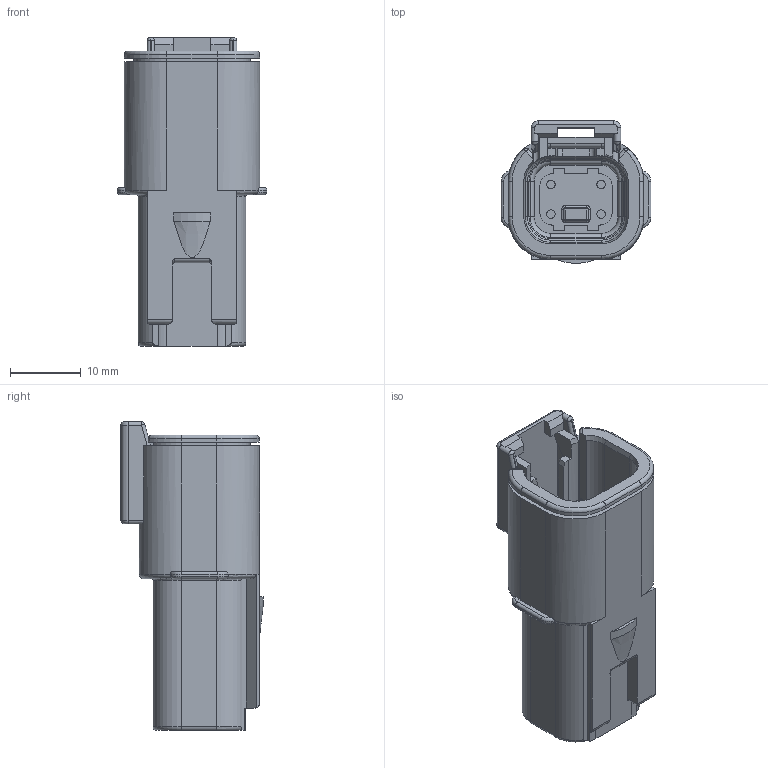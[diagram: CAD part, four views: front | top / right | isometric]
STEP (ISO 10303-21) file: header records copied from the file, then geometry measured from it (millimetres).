
FILE_DESCRIPTION((''),'2;1');
FILE_NAME('C-DTMH04-4PA','2013-07-29T',('workeradm'),('Tyco Electronics Ltd.'),'PRO/ENGINEER BY PARAMETRIC TECHNOLOGY CORPORATION, 2011490','PRO/ENGINEER BY PARAMETRIC TECHNOLOGY CORPORATION, 2011490','');
FILE_SCHEMA(('AUTOMOTIVE_DESIGN { 1 0 10303 214 1 1 1 1 }'));
Length unit declared in the file: millimetre
Products named in the file (1): C-DTMH04-4PA
Bounding box: 21.18 x 20.12 x 43.69 mm (x, y, z)
Volume: 7699.6 mm3; surface area: 5995.1 mm2
Topology: 1 solids, 1 shells, 435 faces, 1071 edges, 654 vertices
Faces by surface type: plane 194, cylinder 149, torus 52, cone 22, bspline 12, sphere 6
Entity records: 14444 total; most frequent: CARTESIAN_POINT 3738, DIRECTION 2231, ORIENTED_EDGE 2142, EDGE_CURVE 1071, AXIS2_PLACEMENT_3D 804, VERTEX_POINT 654, VECTOR 623, LINE 623
